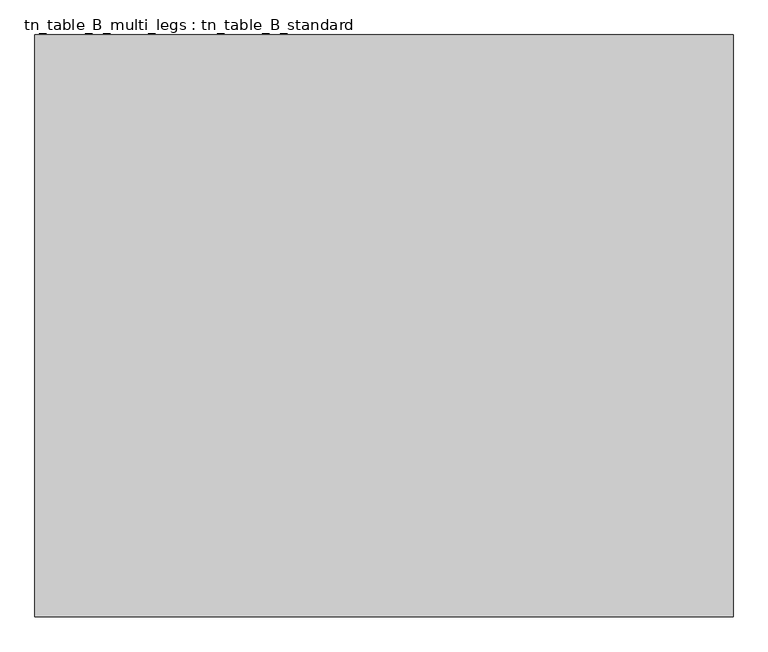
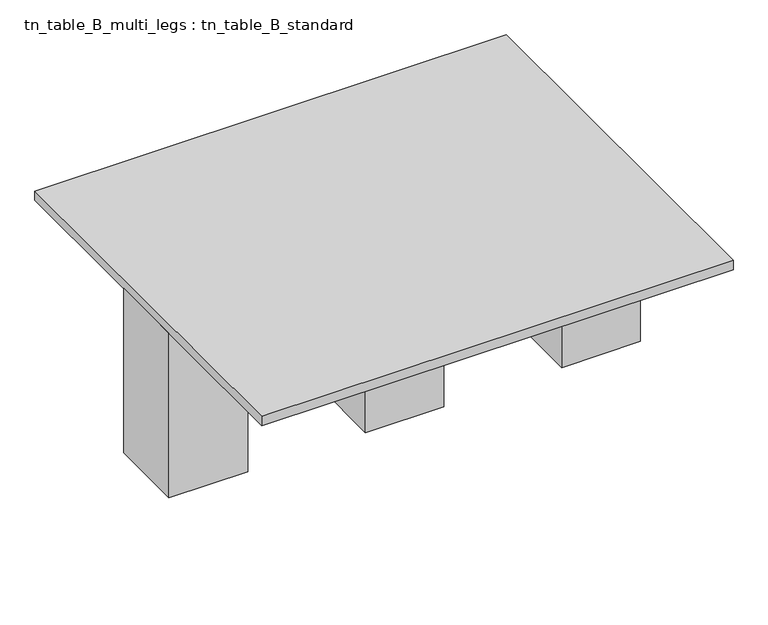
"""IFC4 building model written with IfcOpenShell, lengths in millimetres: furniture geometry, tn_table_B_multi_legs : tn_table_B_standard."""

from ifc_helpers import new_model, si_unit, frame, origin, origin_with_axes, place, context, project, spatial, polyline, outline, extrude, source, transform, mapped, element, save


def tn_table_b_multi_legs_tn_table_b_standard_739334e6(model_context):
    return source(origin(), model_context, "Body", "SweptSolid", [
        extrude(outline(polyline([(444.4621021, 165.9256545), (444.4621021, -138.8743455), (139.6621021, -138.8743455), (139.6621021, 165.9256545), (444.4621021, 165.9256545)])), origin_with_axes(), (0.0, 0.0, 1.0), 673.1),
        extrude(outline(polyline([(-317.5378979, 165.9256545), (-317.5378979, -138.8743455), (-622.3378979, -138.8743455), (-622.3378979, 165.9256545), (-317.5378979, 165.9256545)])), origin_with_axes(), (0.0, 0.0, 1.0), 673.1),
        extrude(outline(polyline([(-1079.5378979, 165.9256545), (-1079.5378979, -138.8743455), (-1384.3378979, -138.8743455), (-1384.3378979, 165.9256545), (-1079.5378979, 165.9256545)])), origin_with_axes(), (0.0, 0.0, 1.0), 673.1),
        extrude(outline(polyline([(444.4621021, 762.0), (444.4621021, -762.0), (-1384.3378979, -762.0), (-1384.3378979, 762.0), (444.4621021, 762.0)])), frame((0.0, 0.0, 673.1), z_axis=(0.0, 0.0, 1.0), x_axis=(1.0, 0.0, 0.0)), (0.0, 0.0, 1.0), 38.1),
    ])


if __name__ == "__main__":
    model = new_model("IFC4")
    model_context = context("Model", 3, world=origin())
    ifc_project = project(units=[si_unit("LENGTHUNIT", "METRE", prefix="MILLI")], contexts=[model_context])
    site = spatial("IfcSite", under=ifc_project)
    building = spatial("IfcBuilding", under=site)
    placement = place(None, origin())
    tn_table_b_multi_legs_tn_table_b_standard_shape = tn_table_b_multi_legs_tn_table_b_standard_739334e6(model_context)
    element("IfcFurniture", 1, ObjectType="tn_table_B_multi_legs : tn_table_B_standard", at=placement, inside=building, context=model_context, shape_type="MappedRepresentation", body=[
        mapped(tn_table_b_multi_legs_tn_table_b_standard_shape, transform((0.0, 0.0, 0.0), x_axis=(1.0, 0.0, 0.0), y_axis=(0.0, 1.0, 0.0), z_axis=(0.0, 0.0, 1.0))),
    ])
    save(model, "model.ifc")
